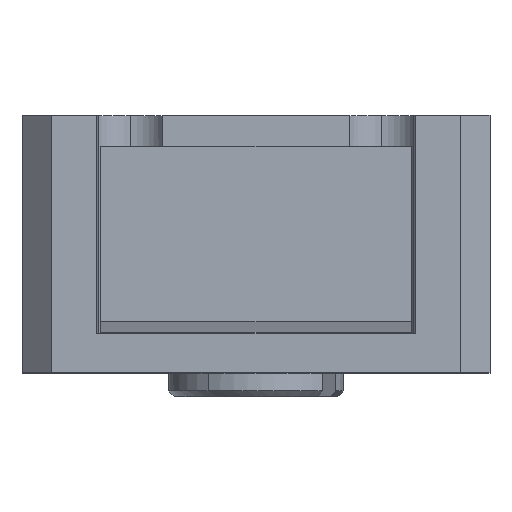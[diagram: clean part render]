
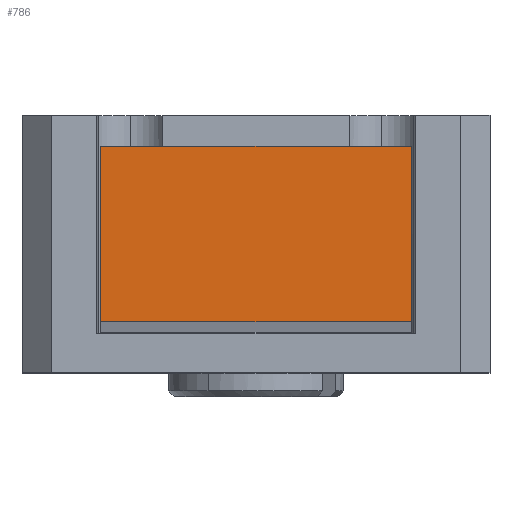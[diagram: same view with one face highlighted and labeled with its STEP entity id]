
A CAD part, top view. The second image highlights one B-rep face of the part: STEP entity #786.
In plain terms, the highlighted planar face has unit normal (0, 0, 1).
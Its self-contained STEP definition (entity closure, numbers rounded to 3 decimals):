
#93 = VERTEX_POINT ( 'NONE', #1011 ) ;
#102 = VERTEX_POINT ( 'NONE', #1154 ) ;
#124 = DIRECTION ( 'NONE',  ( -1., 0., 0. ) ) ;
#126 = DIRECTION ( 'NONE',  ( 1., 0., 0. ) ) ;
#148 = DIRECTION ( 'NONE',  ( 0., -1., 0. ) ) ;
#179 = EDGE_LOOP ( 'NONE', ( #595, #276, #295, #1861 ) ) ;
#182 = CARTESIAN_POINT ( 'NONE',  ( 6.876, 22.2, 99.58 ) ) ;
#234 = EDGE_CURVE ( 'NONE', #102, #1984, #292, .T. ) ;
#254 = DIRECTION ( 'NONE',  ( 0., 0., 1. ) ) ;
#276 = ORIENTED_EDGE ( 'NONE', *, *, #436, .T. ) ;
#292 = LINE ( 'NONE', #1823, #865 ) ;
#295 = ORIENTED_EDGE ( 'NONE', *, *, #914, .T. ) ;
#406 = VECTOR ( 'NONE', #148, 1000. ) ;
#436 = EDGE_CURVE ( 'NONE', #1984, #1044, #1437, .T. ) ;
#493 = LINE ( 'NONE', #1725, #1408 ) ;
#514 = FACE_OUTER_BOUND ( 'NONE', #179, .T. ) ;
#595 = ORIENTED_EDGE ( 'NONE', *, *, #234, .T. ) ;
#765 = DIRECTION ( 'NONE',  ( 1., 0., 0. ) ) ;
#786 = ADVANCED_FACE ( 'NONE', ( #514 ), #2032, .T. ) ;
#865 = VECTOR ( 'NONE', #1185, 1000. ) ;
#914 = EDGE_CURVE ( 'NONE', #1044, #93, #1607, .T. ) ;
#925 = EDGE_CURVE ( 'NONE', #93, #102, #493, .T. ) ;
#969 = VECTOR ( 'NONE', #124, 1000. ) ;
#1011 = CARTESIAN_POINT ( 'NONE',  ( 1.576, 19.2, 99.58 ) ) ;
#1044 = VERTEX_POINT ( 'NONE', #1913 ) ;
#1055 = CARTESIAN_POINT ( 'NONE',  ( 6.876, 19.2, 99.58 ) ) ;
#1059 = AXIS2_PLACEMENT_3D ( 'NONE', #1055, #254, #765 ) ;
#1106 = CARTESIAN_POINT ( 'NONE',  ( 1.576, 22.2, 99.58 ) ) ;
#1154 = CARTESIAN_POINT ( 'NONE',  ( 6.876, 19.2, 99.58 ) ) ;
#1185 = DIRECTION ( 'NONE',  ( 0., 1., 0. ) ) ;
#1408 = VECTOR ( 'NONE', #126, 1000. ) ;
#1437 = LINE ( 'NONE', #1535, #969 ) ;
#1535 = CARTESIAN_POINT ( 'NONE',  ( 6.876, 22.2, 99.58 ) ) ;
#1607 = LINE ( 'NONE', #1106, #406 ) ;
#1725 = CARTESIAN_POINT ( 'NONE',  ( 1.576, 19.2, 99.58 ) ) ;
#1823 = CARTESIAN_POINT ( 'NONE',  ( 6.876, 22.2, 99.58 ) ) ;
#1861 = ORIENTED_EDGE ( 'NONE', *, *, #925, .T. ) ;
#1913 = CARTESIAN_POINT ( 'NONE',  ( 1.576, 22.2, 99.58 ) ) ;
#1984 = VERTEX_POINT ( 'NONE', #182 ) ;
#2032 = PLANE ( 'NONE',  #1059 ) ;
